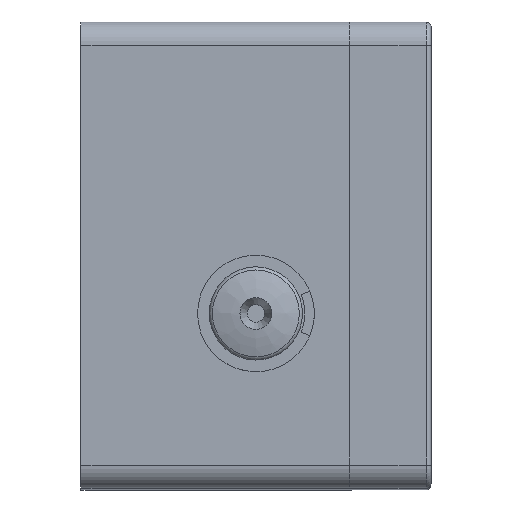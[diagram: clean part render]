
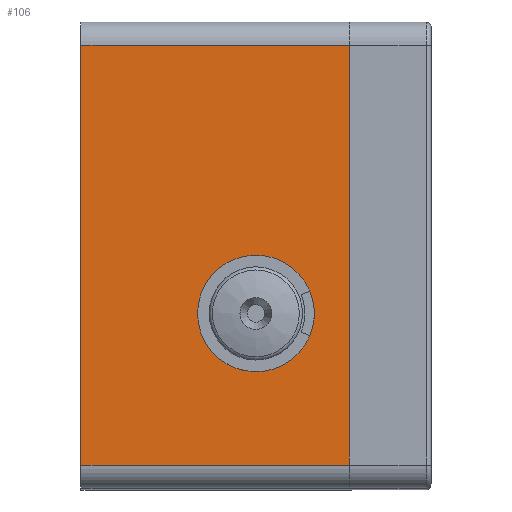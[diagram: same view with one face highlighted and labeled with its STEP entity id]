
A CAD part, top view. The second image highlights one B-rep face of the part: STEP entity #106.
In plain terms, the highlighted planar face has unit normal (0, 0, 1).
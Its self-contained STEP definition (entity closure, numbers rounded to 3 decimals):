
#106 = ADVANCED_FACE( '', ( #327, #328 ), #329, .T. );
#327 = FACE_OUTER_BOUND( '', #717, .T. );
#328 = FACE_BOUND( '', #718, .T. );
#329 = PLANE( '', #719 );
#717 = EDGE_LOOP( '', ( #1330, #1331, #1332, #1333 ) );
#718 = EDGE_LOOP( '', ( #1334, #1335 ) );
#719 = AXIS2_PLACEMENT_3D( '', #1336, #1337, #1338 );
#1330 = ORIENTED_EDGE( '', *, *, #2617, .T. );
#1331 = ORIENTED_EDGE( '', *, *, #2618, .F. );
#1332 = ORIENTED_EDGE( '', *, *, #2605, .T. );
#1333 = ORIENTED_EDGE( '', *, *, #2582, .T. );
#1334 = ORIENTED_EDGE( '', *, *, #2619, .F. );
#1335 = ORIENTED_EDGE( '', *, *, #2620, .F. );
#1336 = CARTESIAN_POINT( '', ( -7.5, 17., 39. ) );
#1337 = DIRECTION( '', ( 0., 0., 1. ) );
#1338 = DIRECTION( '', ( -1., 0., 0. ) );
#2582 = EDGE_CURVE( '', #3090, #3088, #3091, .T. );
#2605 = EDGE_CURVE( '', #3128, #3090, #3132, .F. );
#2617 = EDGE_CURVE( '', #3088, #3152, #3153, .T. );
#2618 = EDGE_CURVE( '', #3128, #3152, #3154, .T. );
#2619 = EDGE_CURVE( '', #3155, #3156, #3157, .T. );
#2620 = EDGE_CURVE( '', #3156, #3155, #3158, .T. );
#3088 = VERTEX_POINT( '', #3956 );
#3090 = VERTEX_POINT( '', #3958 );
#3091 = LINE( '', #3959, #3960 );
#3128 = VERTEX_POINT( '', #4012 );
#3132 = LINE( '', #4017, #4018 );
#3152 = VERTEX_POINT( '', #4049 );
#3153 = LINE( '', #4050, #4051 );
#3154 = LINE( '', #4052, #4053 );
#3155 = VERTEX_POINT( '', #4054 );
#3156 = VERTEX_POINT( '', #4055 );
#3157 = CIRCLE( '', #4056, 2.5 );
#3158 = CIRCLE( '', #4057, 2.5 );
#3956 = CARTESIAN_POINT( '', ( -7.5, -2., 39. ) );
#3958 = CARTESIAN_POINT( '', ( -7.5, 16., 39. ) );
#3959 = CARTESIAN_POINT( '', ( -7.5, 17., 39. ) );
#3960 = VECTOR( '', #4979, 1000. );
#4012 = CARTESIAN_POINT( '', ( 4., 16., 39. ) );
#4017 = CARTESIAN_POINT( '', ( -7.5, 16., 39. ) );
#4018 = VECTOR( '', #5014, 1000. );
#4049 = CARTESIAN_POINT( '', ( 4., -2., 39. ) );
#4050 = CARTESIAN_POINT( '', ( -7.5, -2., 39. ) );
#4051 = VECTOR( '', #5026, 1000. );
#4052 = CARTESIAN_POINT( '', ( 4., 17., 39. ) );
#4053 = VECTOR( '', #5027, 1000. );
#4054 = CARTESIAN_POINT( '', ( 2.31, 5.457, 39. ) );
#4055 = CARTESIAN_POINT( '', ( 2.31, 3.543, 39. ) );
#4056 = AXIS2_PLACEMENT_3D( '', #5028, #5029, #5030 );
#4057 = AXIS2_PLACEMENT_3D( '', #5031, #5032, #5033 );
#4979 = DIRECTION( '', ( 0., -1., 0. ) );
#5014 = DIRECTION( '', ( 1., 0., 0. ) );
#5026 = DIRECTION( '', ( 1., 0., 0. ) );
#5027 = DIRECTION( '', ( 0., -1., 0. ) );
#5028 = CARTESIAN_POINT( '', ( 0., 4.5, 39. ) );
#5029 = DIRECTION( '', ( 0., 0., 1. ) );
#5030 = DIRECTION( '', ( 1., 0., 0. ) );
#5031 = CARTESIAN_POINT( '', ( 0., 4.5, 39. ) );
#5032 = DIRECTION( '', ( 0., 0., 1. ) );
#5033 = DIRECTION( '', ( -1., 0., 0. ) );
